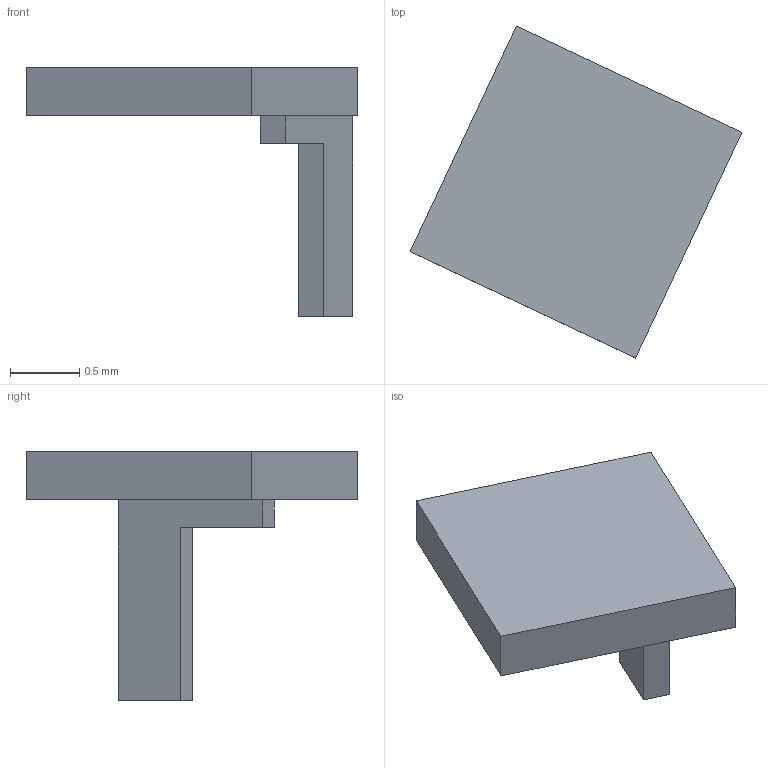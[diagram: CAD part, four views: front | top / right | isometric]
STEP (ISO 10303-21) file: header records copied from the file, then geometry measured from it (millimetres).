
FILE_DESCRIPTION(('FreeCAD Model'),'2;1');
FILE_NAME('Open CASCADE Shape Model','2026-10-23T21:15:57',('FreeCAD'),( 'FreeCAD'),'Open CASCADE STEP processor 7.8','FreeCAD','Unknown');
FILE_SCHEMA(('AUTOMOTIVE_DESIGN { 1 0 10303 214 1 1 1 1 }'));
Length unit declared in the file: millimetre
Products named in the file (1): Open CASCADE STEP translator 7.8 20
Bounding box: 2.4 x 2.4 x 1.8 mm (x, y, z)
Volume: 1.3 mm3; surface area: 11.3 mm2
Topology: 1 solids, 1 shells, 12 faces, 30 edges, 20 vertices
Faces by surface type: plane 12
Entity records: 364 total; most frequent: CARTESIAN_POINT 63, ORIENTED_EDGE 60, DIRECTION 56, EDGE_CURVE 30, LINE 30, VECTOR 30, VERTEX_POINT 20, AXIS2_PLACEMENT_3D 13
